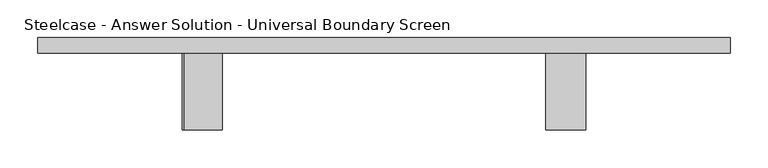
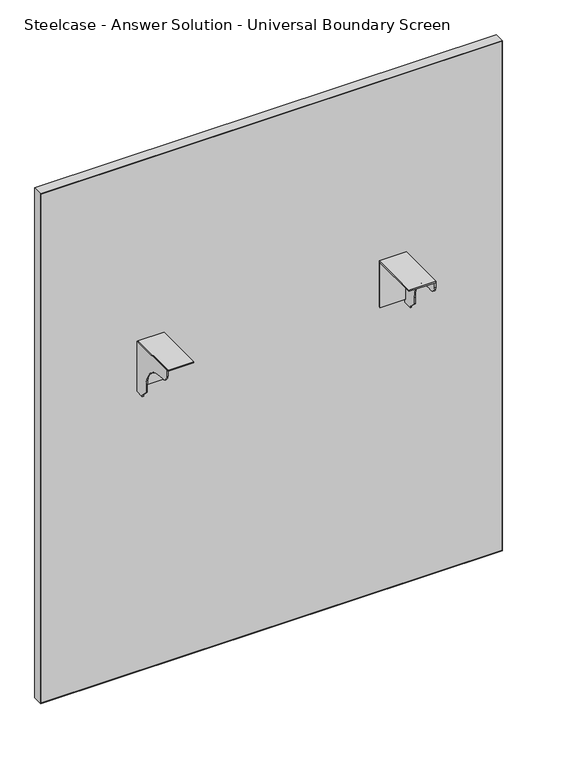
"""IFC4 building model written with IfcOpenShell, lengths in millimetres: furniture geometry, Steelcase - Answer Solution - Universal Boundary Screen : 42H x 36W."""

from ifc_helpers import new_model, si_unit, point, frame, frame_2d, origin, place, context, project, spatial, polyline, circle_curve, trimmed, segment, composite_curve, outline, extrude, source, transform, mapped, element, save


def steelcase_answer_solution_universal_boundary_screen_2555c572(model_context):
    return source(origin(), model_context, "Body", "SweptSolid", [
        extrude(outline(polyline([(-103.1670434, 689.3558876), (-103.1670434, 692.1499758), (-1.5668826, 692.1499758), (-1.5668826, 595.5029317), (-4.1079736, 595.5029317), (-4.1079736, 689.3558876), (-103.1670434, 689.3558876)])), frame((743.4336711, 0.0, 0.0), z_axis=(1.0, 0.0, 0.0), x_axis=(0.0, 1.0, 0.0)), (0.0, 0.0, 1.0), 53.3444116),
        extrude(outline(composite_curve([segment(polyline([(-103.1670434, 679.2814802), (-103.1670434, 692.1499758), (-1.5668826, 692.1499758), (-1.5668826, 586.9634093), (-19.8232934, 586.9634093), (-19.8232934, 589.7574248), (-32.0458032, 601.9799346), (-32.0458032, 615.7814802)]), True, "CONTINUOUS"), segment(trimmed(circle_curve(frame_2d((-82.8458032, 615.7814802)), 50.8), [point((-32.0458032, 615.7814802))], [point((-82.8458032, 666.5814802))], True, "CARTESIAN"), True, "CONTINUOUS"), segment(polyline([(-82.8458032, 666.5814802), (-90.4670434, 666.5814802)]), True, "CONTINUOUS"), segment(trimmed(circle_curve(frame_2d((-90.4670434, 679.2814802)), 12.7), [point((-90.4670434, 666.5814802))], [point((-103.1670434, 679.2814802))], False, "CARTESIAN"), True, "CONTINUOUS")], self_intersect=False)), frame((794.2328959, 0.0, 0.0), z_axis=(1.0, 0.0, 0.0), x_axis=(0.0, 1.0, 0.0)), (0.0, 0.0, 1.0), 2.5451868),
        extrude(outline(polyline([(-103.1670434, 689.3558876), (-103.1670434, 692.1499758), (-1.5668826, 692.1499758), (-1.5668826, 595.5029317), (-4.1079736, 595.5029317), (-4.1079736, 689.3558876), (-103.1670434, 689.3558876)])), frame((265.9232694, 0.0, 0.0), z_axis=(1.0, 0.0, 0.0), x_axis=(0.0, 1.0, 0.0)), (0.0, 0.0, 1.0), 50.7992249),
        extrude(outline(composite_curve([segment(polyline([(-103.1670434, 679.2814802), (-103.1670434, 692.1499758), (-1.5668826, 692.1499758), (-1.5668826, 586.9634093), (-19.8232934, 586.9634093), (-19.8232934, 589.7574248), (-32.0458032, 601.9799346), (-32.0458032, 615.7814802)]), True, "CONTINUOUS"), segment(trimmed(circle_curve(frame_2d((-82.8458032, 615.7814802)), 50.8), [point((-32.0458032, 615.7814802))], [point((-82.8458032, 666.5814802))], True, "CARTESIAN"), True, "CONTINUOUS"), segment(polyline([(-82.8458032, 666.5814802), (-90.4670434, 666.5814802)]), True, "CONTINUOUS"), segment(trimmed(circle_curve(frame_2d((-90.4670434, 679.2814802)), 12.7), [point((-90.4670434, 666.5814802))], [point((-103.1670434, 679.2814802))], False, "CARTESIAN"), True, "CONTINUOUS")], self_intersect=False)), frame((263.3780827, 0.0, 0.0), z_axis=(1.0, 0.0, 0.0), x_axis=(0.0, 1.0, 0.0)), (0.0, 0.0, 1.0), 2.5451868),
        extrude(outline(polyline([(73.8706578, 18.9055112), (986.2855076, 18.9055112), (986.2855076, -1.5668826), (73.8706578, -1.5668826), (73.8706578, 18.9055112)])), frame((0.0, 0.0, 1.016), z_axis=(0.0, 0.0, 1.0), x_axis=(1.0, 0.0, 0.0)), (0.0, 0.0, 1.0), 1064.7914249),
        extrude(outline(polyline([(1066.8, 987.2780827), (1066.8, 72.8780827), (0.0, 72.8780827), (0.0, 987.2780827), (1066.8, 987.2780827)]), holes=[polyline([(1065.8074249, 986.2855076), (1.016, 986.2855076), (1.016, 73.8706578), (1065.8074249, 73.8706578), (1065.8074249, 986.2855076)])]), frame((0.0, -1.5668826, 0.0), z_axis=(0.0, 1.0, 0.0), x_axis=(0.0, 0.0, 1.0)), (0.0, 0.0, 1.0), 20.4723938),
    ])


if __name__ == "__main__":
    model = new_model("IFC4")
    model_context = context("Model", 3, world=origin())
    ifc_project = project(units=[si_unit("LENGTHUNIT", "METRE", prefix="MILLI")], contexts=[model_context])
    site = spatial("IfcSite", under=ifc_project)
    building = spatial("IfcBuilding", under=site)
    placement = place(None, origin())
    steelcase_answer_solution_universal_boundary_screen_shape = steelcase_answer_solution_universal_boundary_screen_2555c572(model_context)
    element("IfcFurniture", 1, ObjectType="Steelcase - Answer Solution - Universal Boundary Screen : 42H x 36W", at=placement, inside=building, context=model_context, shape_type="MappedRepresentation", body=[
        mapped(steelcase_answer_solution_universal_boundary_screen_shape, transform((0.0, 0.0, 0.0), x_axis=(1.0, 0.0, 0.0), y_axis=(0.0, 1.0, 0.0), z_axis=(0.0, 0.0, 1.0))),
    ])
    save(model, "model.ifc")
